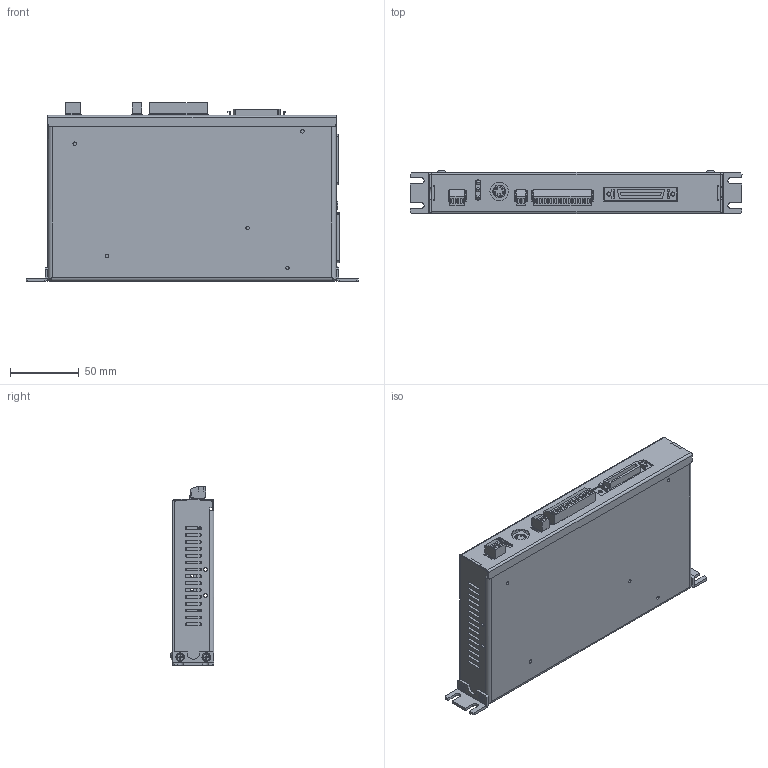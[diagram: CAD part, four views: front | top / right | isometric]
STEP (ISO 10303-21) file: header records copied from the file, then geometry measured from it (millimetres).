
FILE_DESCRIPTION (( 'STEP AP214' ), '1' );
FILE_NAME ('EXC406M.STEP', '2021-02-04T07:38:09', ( '' ), ( '' ), 'SwSTEP 2.0', 'SolidWorks 2017', '' );
FILE_SCHEMA (( 'AUTOMOTIVE_DESIGN' ));
Length unit declared in the file: millimetre
Products named in the file (22): D-SUB-44P; User Library-RJ45; TERMINAL-12P(公); TERMINAL-12P; EXC406M-C4; SCSI-50P; EXC406M-PC01; 接頭-01; TSARA3-5(低頭)_TSARA3-5; TRSS3-6_TRSS3-6; TERMINAL-2P(公); TERMINAL-2P; TERMINAL-3P(公); EXC406M-C2A; EXC406M; EXC406M-C1A; MINIDIN-4P; LED-301; D-SUO-25P; NKJ3-6_NKJ3-6; TERMINAL-3P
Assembly tree (30 placements, depth 3):
  EXC406M
    EXC406M-PC01
      EXC406M-PC01
      TERMINAL-3P
      TERMINAL-2P
      TERMINAL-12P
      LED-301
      SCSI-50P
      D-SUB-44P
      D-SUO-25P
      接頭-01
      MINIDIN-4P
      User Library-RJ45
    EXC406M-C1A
    EXC406M-C2A
    TERMINAL-2P(公)
    NKJ3-6_NKJ3-6  x5
    TRSS3-6_TRSS3-6  x2
    TSARA3-5(低頭)_TSARA3-5  x4
    EXC406M-C4  x2
    TERMINAL-3P(公)
    TERMINAL-12P(公)
Bounding box: 242 x 31.8 x 130.4 mm (x, y, z)
Volume: 176850.6 mm3; surface area: 214772.4 mm2
Topology: 34 solids, 34 shells, 2552 faces, 6439 edges, 4220 vertices
Faces by surface type: plane 1720, cylinder 514, bspline 156, cone 106, torus 42, sphere 14
Entity records: 84061 total; most frequent: CARTESIAN_POINT 20635, ORIENTED_EDGE 11430, DIRECTION 10695, EDGE_CURVE 5715, VECTOR 4359, LINE 4359, VERTEX_POINT 3768, AXIS2_PLACEMENT_3D 3168
